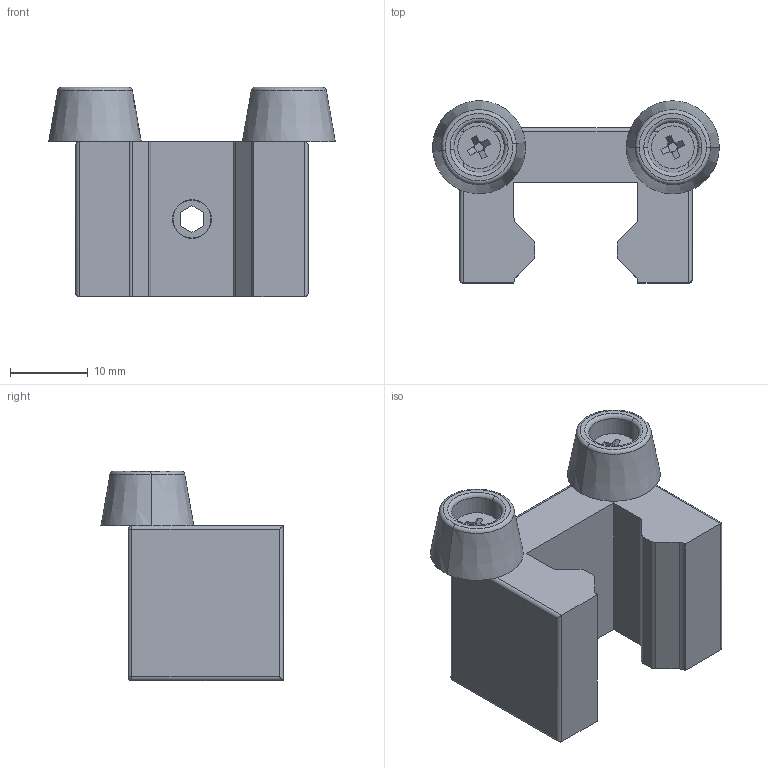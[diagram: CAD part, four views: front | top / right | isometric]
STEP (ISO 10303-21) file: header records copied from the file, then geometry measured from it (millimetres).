
FILE_DESCRIPTION (( 'STEP AP214' ), '1' );
FILE_NAME ('2.9026 HG15.STEP', '2025-09-23T07:17:36', ( '' ), ( '' ), 'SwSTEP 2.0', 'SolidWorks 2025', '' );
FILE_SCHEMA (( 'AUTOMOTIVE_DESIGN' ));
Length unit declared in the file: millimetre
Products named in the file (1): 2.9026 HG15
Bounding box: 36.98 x 23.5 x 27 mm (x, y, z)
Surface area: 4566.3 mm2 (no closed solid volume)
Topology: 0 solids, 6 shells, 155 faces, 435 edges, 288 vertices
Faces by surface type: plane 86, cylinder 26, bspline 17, cone 14, torus 8, sphere 4
Entity records: 7697 total; most frequent: CARTESIAN_POINT 2168, ORIENTED_EDGE 784, DIRECTION 745, EDGE_CURVE 431, VERTEX_POINT 288, LINE 271, VECTOR 271, AXIS2_PLACEMENT_3D 237
